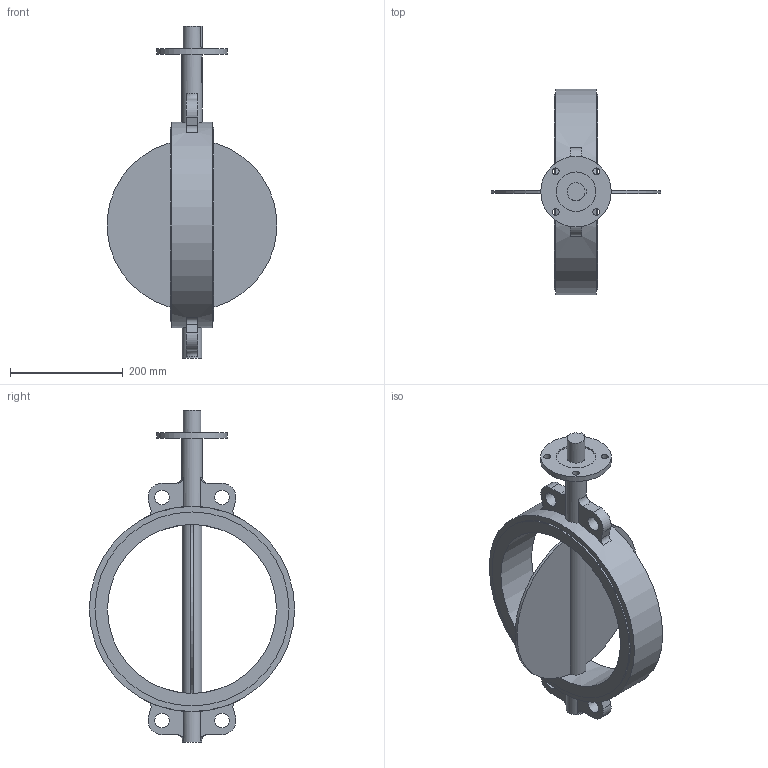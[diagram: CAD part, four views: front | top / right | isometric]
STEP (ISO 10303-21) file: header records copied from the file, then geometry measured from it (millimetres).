
FILE_DESCRIPTION(('STEP AP203'), '1');
FILE_NAME('青蜮铕 017W.Y_DN300_PN16', '', ('UNSPECIFIED'), ('UNSPECIFIED'), 'ASCON STEP Converter 1.6', 'ASCON Math Kernel', '');
FILE_SCHEMA(('CONFIG_CONTROL_DESIGN'));
Length unit declared in the file: millimetre
Bounding box: 300.4 x 364.2 x 589 mm (x, y, z)
Volume: 3605284.5 mm3; surface area: 458814.2 mm2
Topology: 1 solids, 1 shells, 89 faces, 220 edges, 146 vertices
Faces by surface type: plane 48, cylinder 37, torus 4
Full cylindrical faces by diameter (mm): 12 x4, 26 x4, 31.7 x1, 35 x2, 37 x1, 70 x1, 125 x1, 300 x1, 344.2 x2, 364.2 x1
Entity records: 4569 total; most frequent: CARTESIAN_POINT 1677, DIRECTION 452, ORIENTED_EDGE 404, EDGE_CURVE 202, AXIS2_PLACEMENT_3D 180, VERTEX_POINT 146, EDGE_LOOP 140, FACE_BOUND 107
